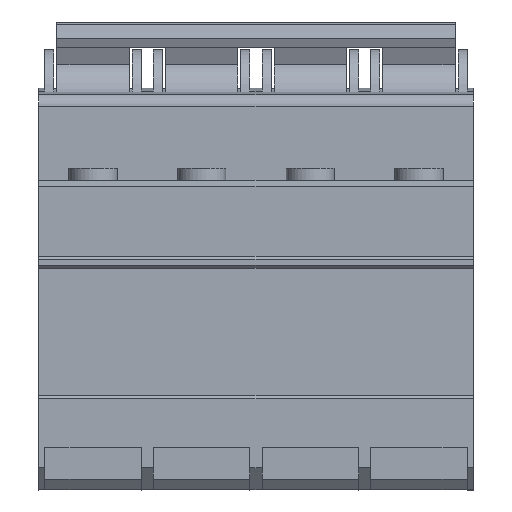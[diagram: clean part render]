
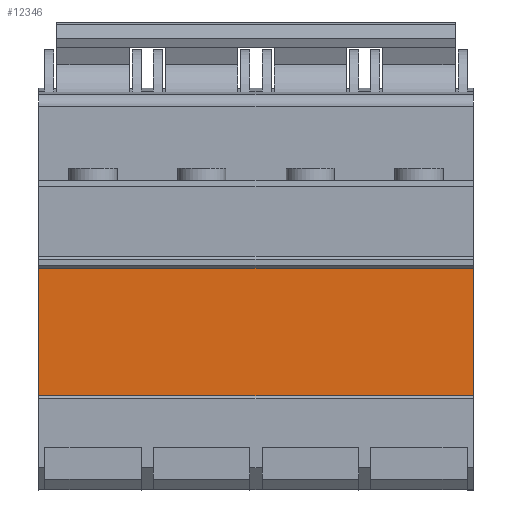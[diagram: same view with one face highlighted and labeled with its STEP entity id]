
A CAD part, front view. The second image highlights one B-rep face of the part: STEP entity #12346.
In plain terms, the highlighted planar face has unit normal (0, -1, 0).
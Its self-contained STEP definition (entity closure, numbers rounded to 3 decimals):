
#558=LINE('',#20831,#1526);
#654=LINE('',#21110,#1622);
#703=LINE('',#21284,#1671);
#704=LINE('',#21286,#1672);
#1526=VECTOR('',#15170,10.);
#1622=VECTOR('',#15440,10.);
#1671=VECTOR('',#15639,10.);
#1672=VECTOR('',#15642,10.);
#3190=FACE_OUTER_BOUND('',#4088,.T.);
#4088=EDGE_LOOP('',(#9640,#9641,#9642,#9643));
#5662=VERTEX_POINT('',#20828);
#5663=VERTEX_POINT('',#20830);
#5758=VERTEX_POINT('',#21107);
#5759=VERTEX_POINT('',#21109);
#7037=EDGE_CURVE('',#5662,#5663,#558,.T.);
#7169=EDGE_CURVE('',#5759,#5758,#654,.T.);
#7250=EDGE_CURVE('',#5758,#5663,#703,.T.);
#7251=EDGE_CURVE('',#5759,#5662,#704,.T.);
#9640=ORIENTED_EDGE('',*,*,#7169,.T.);
#9641=ORIENTED_EDGE('',*,*,#7250,.T.);
#9642=ORIENTED_EDGE('',*,*,#7037,.F.);
#9643=ORIENTED_EDGE('',*,*,#7251,.F.);
#11645=PLANE('',#13391);
#12346=ADVANCED_FACE('',(#3190),#11645,.T.);
#13391=AXIS2_PLACEMENT_3D('',#21285,#15640,#15641);
#15170=DIRECTION('',(0.,0.,-1.));
#15440=DIRECTION('',(0.,0.,-1.));
#15639=DIRECTION('',(1.,0.,0.));
#15640=DIRECTION('center_axis',(0.,-1.,0.));
#15641=DIRECTION('ref_axis',(0.,0.,-1.));
#15642=DIRECTION('',(1.,0.,0.));
#20828=CARTESIAN_POINT('',(72.,-36.074,-3.815));
#20830=CARTESIAN_POINT('',(72.,-36.074,-24.923));
#20831=CARTESIAN_POINT('',(72.,-36.074,-3.815));
#21107=CARTESIAN_POINT('',(0.,-36.074,-24.923));
#21109=CARTESIAN_POINT('',(0.,-36.074,-3.815));
#21110=CARTESIAN_POINT('',(0.,-36.074,-3.815));
#21284=CARTESIAN_POINT('',(0.,-36.074,-24.923));
#21285=CARTESIAN_POINT('Origin',(0.,-36.074,-3.815));
#21286=CARTESIAN_POINT('',(0.,-36.074,-3.815));
